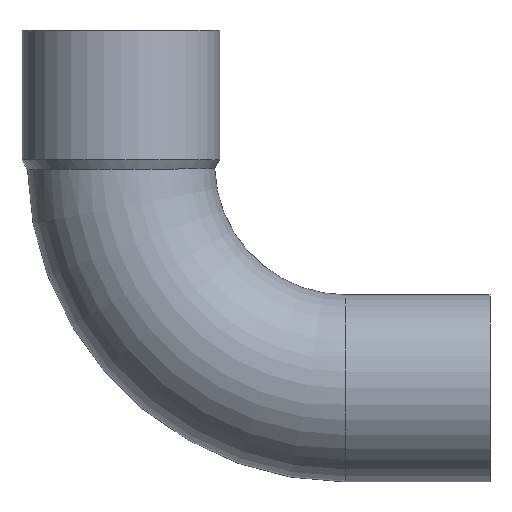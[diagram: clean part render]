
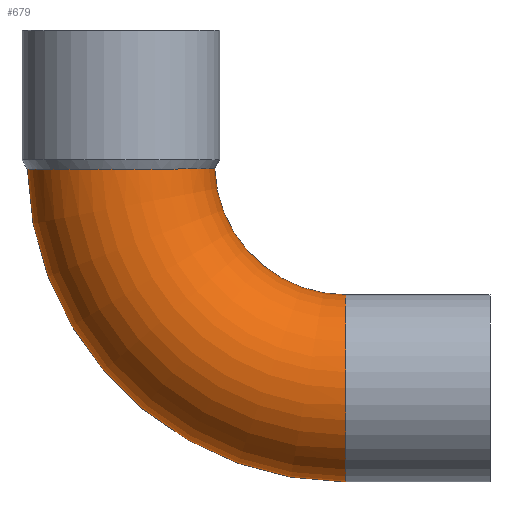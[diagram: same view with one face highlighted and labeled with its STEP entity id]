
A CAD part, front view. The second image highlights one B-rep face of the part: STEP entity #679.
In plain terms, the highlighted toroidal (fillet/blend) face has major radius 42 mm and minor radius 17.5 mm.
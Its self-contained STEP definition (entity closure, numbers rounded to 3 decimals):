
#49=CARTESIAN_POINT('',(-37.456,0.,-1.015));
#50=VERTEX_POINT('',#49);
#51=CARTESIAN_POINT('',(22.035,0.,-59.5));
#52=VERTEX_POINT('',#51);
#53=CARTESIAN_POINT('',(22.035,0.,0.0));
#54=DIRECTION('',(0.0,-1.0,0.0));
#55=DIRECTION('',(0.0,0.0,-1.0));
#56=AXIS2_PLACEMENT_3D('',#53,#54,#55);
#57=CIRCLE('',#56,59.5);
#58=EDGE_CURVE('',#50,#52,#57,.T.);
#60=CARTESIAN_POINT('',(-2.446,0.,-0.967));
#61=VERTEX_POINT('',#60);
#85=CARTESIAN_POINT('',(22.035,0.,-24.5));
#86=VERTEX_POINT('',#85);
#87=CARTESIAN_POINT('',(22.035,0.,0.0));
#88=DIRECTION('',(0.0,1.0,0.0));
#89=DIRECTION('',(0.0,0.0,-1.0));
#90=AXIS2_PLACEMENT_3D('',#87,#88,#89);
#91=CIRCLE('',#90,24.5);
#92=EDGE_CURVE('',#86,#61,#91,.T.);
#210=CARTESIAN_POINT('',(-2.446,0.,-0.967));
#211=CARTESIAN_POINT('',(-2.446,-0.152,-0.967));
#212=CARTESIAN_POINT('',(-2.448,-0.305,-0.967));
#213=CARTESIAN_POINT('',(-2.511,-2.735,-0.967));
#214=CARTESIAN_POINT('',(-3.015,-4.979,-0.969));
#215=CARTESIAN_POINT('',(-4.856,-9.148,-0.974));
#216=CARTESIAN_POINT('',(-6.175,-11.034,-0.977));
#217=CARTESIAN_POINT('',(-9.462,-14.194,-0.984));
#218=CARTESIAN_POINT('',(-11.399,-15.438,-0.988));
#219=CARTESIAN_POINT('',(-15.641,-17.113,-0.995));
#220=CARTESIAN_POINT('',(-17.904,-17.529,-0.998));
#221=CARTESIAN_POINT('',(-22.463,-17.468,-1.003));
#222=CARTESIAN_POINT('',(-24.715,-16.993,-1.005));
#223=CARTESIAN_POINT('',(-28.909,-15.208,-1.009));
#224=CARTESIAN_POINT('',(-30.811,-13.914,-1.01));
#225=CARTESIAN_POINT('',(-34.013,-10.67,-1.013));
#226=CARTESIAN_POINT('',(-35.281,-8.751,-1.014));
#227=CARTESIAN_POINT('',(-37.011,-4.535,-1.015));
#228=CARTESIAN_POINT('',(-37.456,-2.278,-1.015));
#229=CARTESIAN_POINT('',(-37.456,0.,-1.015));
#230=B_SPLINE_CURVE_WITH_KNOTS('',3,(#210,#211,#212,#213,#214,#215,#216,#217,#218,#219,#220,#221,#222,#223,#224,#225,#226,#227,#228,#229),.UNSPECIFIED.,.F.,.U.,(4,2,2,2,2,2,2,2,2,4),(-5.516,-5.47,-4.787,-4.103,-3.419,-2.735,-2.051,-1.367,-0.684,0.0),.UNSPECIFIED.);
#231=EDGE_CURVE('',#61,#50,#230,.T.);
#535=CARTESIAN_POINT('',(22.035,0.,-42.0));
#536=DIRECTION('',(-1.0,0.0,0.0));
#537=DIRECTION('',(0.0,0.0,-1.0));
#538=AXIS2_PLACEMENT_3D('',#535,#536,#537);
#539=CIRCLE('',#538,17.5);
#540=EDGE_CURVE('',#52,#86,#539,.T.);
#668=CARTESIAN_POINT('',(22.035,0.,0.0));
#669=DIRECTION('',(0.0,-1.0,0.0));
#670=DIRECTION('',(0.0,0.0,-1.0));
#671=AXIS2_PLACEMENT_3D('',#668,#669,#670);
#672=TOROIDAL_SURFACE('',#671,42.0,17.5);
#673=ORIENTED_EDGE('',*,*,#58,.T.);
#674=ORIENTED_EDGE('',*,*,#540,.T.);
#675=ORIENTED_EDGE('',*,*,#92,.T.);
#676=ORIENTED_EDGE('',*,*,#231,.T.);
#677=EDGE_LOOP('',(#673,#674,#675,#676));
#678=FACE_OUTER_BOUND('',#677,.T.);
#679=ADVANCED_FACE('',(#678),#672,.T.);
